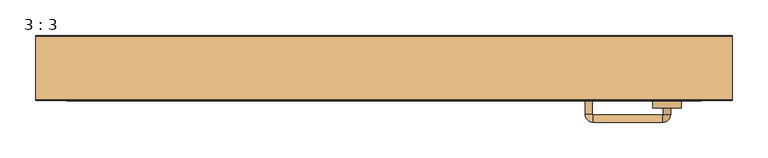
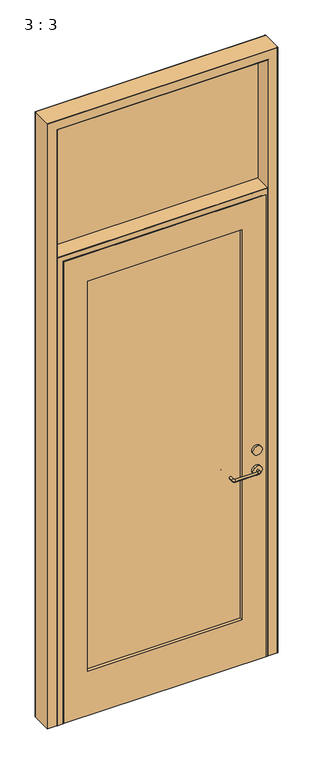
"""IFC4 building model written with IfcOpenShell, lengths in millimetres: door geometry, 3 : 3."""

from ifc_helpers import new_model, si_unit, point, frame, frame_2d, origin, place, context, project, spatial, polyline, circle_curve, ellipse_curve, trimmed, segment, composite_curve, outline, extrude, source, transform, mapped, element, save
from ifc_brep_helpers import plane_surface, cylinder_surface, revolved_surface, advanced_brep


def door_3_3_d5ae6cf6(model_context):
    return source(origin(), model_context, "Body", "SolidModel", [
        advanced_brep(
        [(282.9853306, 0.0, 855.0000042), (292.9853306, 0.0, 855.0000042), (292.9853306, 40.0, 855.0000042), (282.9853306, 40.0, 855.0000042), (402.9183216, 0.0, 855.0000042), (392.9183216, 0.0, 855.0000042), (392.9183216, -19.0, 855.0000042), (402.9183216, -19.0, 855.0000042), (391.9183216, -20.0, 855.0000042), (391.9183216, -30.0, 855.0000042), (293.9853306, -20.0, 855.0000042), (293.9853306, -30.0, 855.0000042), (292.9853306, -19.0, 855.0000042), (282.9853306, -19.0, 855.0000042), (292.9853306, 59.0, 855.0000042), (282.9853306, 59.0, 855.0000042), (293.9853306, 60.0, 855.0000042), (293.9853306, 70.0, 855.0000042), (391.9183216, 60.0, 855.0000042), (391.9183216, 70.0, 855.0000042), (392.9183216, 59.0, 855.0000042), (402.9183216, 59.0, 855.0000042)],
        [
            (0, 1, circle_curve(frame((287.9853306, 0.0, 855.0000042), z_axis=(0.0, 1.0, 0.0), x_axis=(-1.0, 0.0, 0.0)), 5.0)),
            (1, 0, circle_curve(frame((287.9853306, 0.0, 855.0000042), z_axis=(0.0, 1.0, 0.0), x_axis=(-1.0, 0.0, 0.0)), 5.0)),
            (2, 3, circle_curve(frame((287.9853306, 40.0, 855.0000042), z_axis=(0.0, -1.0, 0.0), x_axis=(-1.0, 0.0, 0.0)), 5.0)),
            (3, 2, circle_curve(frame((287.9853306, 40.0, 855.0000042), z_axis=(0.0, -1.0, 0.0), x_axis=(-1.0, 0.0, 0.0)), 5.0)),
            (4, 5, circle_curve(frame((397.9183216, 0.0, 855.0000042), z_axis=(0.0, -1.0, 0.0), x_axis=(1.0, 0.0, 0.0)), 5.0)),
            (5, 6),
            (6, 7, circle_curve(frame((397.9183216, -19.0, 855.0000042), z_axis=(0.0, 1.0, 0.0), x_axis=(1.0, 0.0, 0.0)), 5.0)),
            (7, 4),
            (5, 4, circle_curve(frame((397.9183216, 0.0, 855.0000042), z_axis=(0.0, -1.0, 0.0), x_axis=(1.0, 0.0, 0.0)), 5.0)),
            (7, 6, circle_curve(frame((397.9183216, -19.0, 855.0000042), z_axis=(0.0, 1.0, 0.0), x_axis=(1.0, 0.0, 0.0)), 5.0)),
            (6, 8, circle_curve(frame((391.9183216, -19.0, 855.0000042), z_axis=(0.0, 0.0, -1.0), x_axis=(1.0, 0.0, 0.0)), 1.0)),
            (8, 9, circle_curve(frame((391.9183216, -25.0, 855.0000042), z_axis=(1.0, 0.0, 0.0), x_axis=(0.0, -1.0, 0.0)), 5.0)),
            (9, 7, circle_curve(frame((391.9183216, -19.0, 855.0000042), z_axis=(0.0, 0.0, 1.0), x_axis=(1.0, 0.0, 0.0)), 11.0)),
            (9, 8, circle_curve(frame((391.9183216, -25.0, 855.0000042), z_axis=(1.0, 0.0, 0.0), x_axis=(0.0, -1.0, 0.0)), 5.0)),
            (8, 10),
            (10, 11, circle_curve(frame((293.9853306, -25.0, 855.0000042), z_axis=(1.0, 0.0, 0.0), x_axis=(0.0, -1.0, 0.0)), 5.0)),
            (11, 9),
            (11, 10, circle_curve(frame((293.9853306, -25.0, 855.0000042), z_axis=(1.0, 0.0, 0.0), x_axis=(0.0, -1.0, 0.0)), 5.0)),
            (10, 12, circle_curve(frame((293.9853306, -19.0, 855.0000042), z_axis=(0.0, 0.0, -1.0), x_axis=(0.0, -1.0, 0.0)), 1.0)),
            (12, 13, circle_curve(frame((287.9853306, -19.0, 855.0000042), z_axis=(0.0, -1.0, 0.0), x_axis=(-1.0, 0.0, 0.0)), 5.0)),
            (13, 11, circle_curve(frame((293.9853306, -19.0, 855.0000042), z_axis=(0.0, 0.0, 1.0), x_axis=(0.0, -1.0, 0.0)), 11.0)),
            (13, 12, circle_curve(frame((287.9853306, -19.0, 855.0000042), z_axis=(0.0, -1.0, 0.0), x_axis=(-1.0, 0.0, 0.0)), 5.0)),
            (12, 1),
            (0, 13),
            (14, 15, circle_curve(frame((287.9853306, 59.0, 855.0000042), z_axis=(0.0, -1.0, 0.0), x_axis=(-1.0, 0.0, 0.0)), 5.0)),
            (15, 3),
            (2, 14),
            (15, 14, circle_curve(frame((287.9853306, 59.0, 855.0000042), z_axis=(0.0, -1.0, 0.0), x_axis=(-1.0, 0.0, 0.0)), 5.0)),
            (14, 16, circle_curve(frame((293.9853306, 59.0, 855.0000042), z_axis=(0.0, 0.0, -1.0), x_axis=(-1.0, 0.0, 0.0)), 1.0)),
            (16, 17, circle_curve(frame((293.9853306, 65.0, 855.0000042), z_axis=(-1.0, 0.0, 0.0), x_axis=(0.0, 1.0, 0.0)), 5.0)),
            (17, 15, circle_curve(frame((293.9853306, 59.0, 855.0000042), z_axis=(0.0, 0.0, 1.0), x_axis=(-1.0, 0.0, 0.0)), 11.0)),
            (17, 16, circle_curve(frame((293.9853306, 65.0, 855.0000042), z_axis=(-1.0, 0.0, 0.0), x_axis=(0.0, 1.0, 0.0)), 5.0)),
            (16, 18),
            (18, 19, circle_curve(frame((391.9183216, 65.0, 855.0000042), z_axis=(-1.0, 0.0, 0.0), x_axis=(0.0, 1.0, 0.0)), 5.0)),
            (19, 17),
            (19, 18, circle_curve(frame((391.9183216, 65.0, 855.0000042), z_axis=(-1.0, 0.0, 0.0), x_axis=(0.0, 1.0, 0.0)), 5.0)),
            (18, 20, circle_curve(frame((391.9183216, 59.0, 855.0000042), z_axis=(0.0, 0.0, -1.0), x_axis=(0.0, 1.0, 0.0)), 1.0)),
            (20, 21, circle_curve(frame((397.9183216, 59.0, 855.0000042), z_axis=(0.0, 1.0, 0.0), x_axis=(1.0, 0.0, 0.0)), 5.0)),
            (21, 19, circle_curve(frame((391.9183216, 59.0, 855.0000042), z_axis=(0.0, 0.0, 1.0), x_axis=(0.0, 1.0, 0.0)), 11.0)),
            (21, 20, circle_curve(frame((397.9183216, 59.0, 855.0000042), z_axis=(0.0, 1.0, 0.0), x_axis=(1.0, 0.0, 0.0)), 5.0)),
            (4, 21),
            (20, 5),
        ],
        [
            plane_surface(frame((438.0, 0.0, 0.0), z_axis=(0.0, 1.0, 0.0), x_axis=(0.0, 0.0, 1.0))),
            plane_surface(frame((438.0, 40.0, 0.0), z_axis=(0.0, -1.0, 0.0), x_axis=(0.0, 0.0, 1.0))),
            cylinder_surface(frame((397.9183216, 0.0, 855.0000042), z_axis=(0.0, 1.0, 0.0), x_axis=(1.0, 0.0, 0.0)), 5.0),
            revolved_surface(trimmed(ellipse_curve(frame((397.9183216, -19.0, 855.0000042), z_axis=(0.0, 1.0, 0.0), x_axis=(1.0, 0.0, 0.0)), 5.0, 5.0), [point((392.9183216, -19.0, 855.0000042))], [point((402.9183216, -19.0, 855.0000042))], True, "CARTESIAN"), (391.9183216, -19.0, 0.0), (0.0, 0.0, -1.0)),
            revolved_surface(trimmed(ellipse_curve(frame((397.9183216, -19.0, 855.0000042), z_axis=(0.0, 1.0, 0.0), x_axis=(1.0, 0.0, 0.0)), 5.0, 5.0), [point((402.9183216, -19.0, 855.0000042))], [point((392.9183216, -19.0, 855.0000042))], True, "CARTESIAN"), (391.9183216, -19.0, 0.0), (0.0, 0.0, -1.0)),
            cylinder_surface(frame((391.9183216, -25.0, 855.0000042), z_axis=(1.0, 0.0, 0.0), x_axis=(0.0, -1.0, 0.0)), 5.0),
            revolved_surface(trimmed(ellipse_curve(frame((293.9853306, -25.0, 855.0000042), z_axis=(1.0, 0.0, 0.0), x_axis=(0.0, -1.0, 0.0)), 5.0, 5.0), [point((293.9853306, -20.0, 855.0000042))], [point((293.9853306, -30.0, 855.0000042))], True, "CARTESIAN"), (293.9853306, -19.0, 0.0), (0.0, 0.0, -1.0)),
            revolved_surface(trimmed(ellipse_curve(frame((293.9853306, -25.0, 855.0000042), z_axis=(1.0, 0.0, 0.0), x_axis=(0.0, -1.0, 0.0)), 5.0, 5.0), [point((293.9853306, -30.0, 855.0000042))], [point((293.9853306, -20.0, 855.0000042))], True, "CARTESIAN"), (293.9853306, -19.0, 0.0), (0.0, 0.0, -1.0)),
            cylinder_surface(frame((287.9853306, -19.0, 855.0000042), z_axis=(0.0, -1.0, 0.0), x_axis=(-1.0, 0.0, 0.0)), 5.0),
            cylinder_surface(frame((287.9853306, 0.0, 855.0000042), z_axis=(0.0, -1.0, 0.0), x_axis=(-1.0, 0.0, 0.0)), 5.0),
            revolved_surface(trimmed(ellipse_curve(frame((287.9853306, 59.0, 855.0000042), z_axis=(0.0, -1.0, 0.0), x_axis=(-1.0, 0.0, 0.0)), 5.0, 5.0), [point((292.9853306, 59.0, 855.0000042))], [point((282.9853306, 59.0, 855.0000042))], True, "CARTESIAN"), (293.9853306, 59.0, 0.0), (0.0, 0.0, -1.0)),
            revolved_surface(trimmed(ellipse_curve(frame((287.9853306, 59.0, 855.0000042), z_axis=(0.0, -1.0, 0.0), x_axis=(-1.0, 0.0, 0.0)), 5.0, 5.0), [point((282.9853306, 59.0, 855.0000042))], [point((292.9853306, 59.0, 855.0000042))], True, "CARTESIAN"), (293.9853306, 59.0, 0.0), (0.0, 0.0, -1.0)),
            cylinder_surface(frame((293.9853306, 65.0, 855.0000042), z_axis=(-1.0, 0.0, 0.0), x_axis=(0.0, 1.0, 0.0)), 5.0),
            revolved_surface(trimmed(ellipse_curve(frame((391.9183216, 65.0, 855.0000042), z_axis=(-1.0, 0.0, 0.0), x_axis=(0.0, 1.0, 0.0)), 5.0, 5.0), [point((391.9183216, 60.0, 855.0000042))], [point((391.9183216, 70.0, 855.0000042))], True, "CARTESIAN"), (391.9183216, 59.0, 0.0), (0.0, 0.0, -1.0)),
            revolved_surface(trimmed(ellipse_curve(frame((391.9183216, 65.0, 855.0000042), z_axis=(-1.0, 0.0, 0.0), x_axis=(0.0, 1.0, 0.0)), 5.0, 5.0), [point((391.9183216, 70.0, 855.0000042))], [point((391.9183216, 60.0, 855.0000042))], True, "CARTESIAN"), (391.9183216, 59.0, 0.0), (0.0, 0.0, -1.0)),
            cylinder_surface(frame((397.9183216, 59.0, 855.0000042), z_axis=(0.0, 1.0, 0.0), x_axis=(1.0, 0.0, 0.0)), 5.0),
        ],
        [
            (0, [[1, 2]]),
            (1, [[3, 4]]),
            (2, [[5, 6, 7, 8]]),
            (2, [[-6, 9, -8, 10]]),
            (3, [[-7, 11, 12, 13]]),
            (4, [[-10, -13, 14, -11]]),
            (5, [[-12, 15, 16, 17]]),
            (5, [[-14, -17, 18, -15]]),
            (6, [[-16, 19, 20, 21]]),
            (7, [[-18, -21, 22, -19]]),
            (8, [[-20, 23, -1, 24]]),
            (8, [[-22, -24, -2, -23]]),
            (9, [[25, 26, -3, 27]]),
            (9, [[28, -27, -4, -26]]),
            (10, [[-25, 29, 30, 31]]),
            (11, [[-28, -31, 32, -29]]),
            (12, [[-30, 33, 34, 35]]),
            (12, [[-32, -35, 36, -33]]),
            (13, [[-34, 37, 38, 39]]),
            (14, [[-36, -39, 40, -37]]),
            (15, [[-5, 41, -38, 42]]),
            (15, [[-9, -42, -40, -41]]),
        ],
    ),
        extrude(outline(polyline([(337.9573841, 14.0), (-318.0426159, 14.0), (-318.0426159, 26.0), (337.9573841, 26.0), (337.9573841, 14.0)])), frame((0.0, 0.0, 200.0), z_axis=(0.0, 0.0, 1.0), x_axis=(1.0, 0.0, 0.0)), (0.0, 0.0, 1.0), 1750.0),
        extrude(outline(polyline([(2072.0, 437.9573841), (2072.0, -418.0), (0.0, -418.0), (0.0, 437.9573841), (2072.0, 437.9573841)]), holes=[polyline([(1950.0, -318.0426159), (1950.0, 337.9573841), (200.0, 337.9573841), (200.0, -318.0426159), (1950.0, -318.0426159)])]), frame((0.0, 0.0, 0.0), z_axis=(0.0, 1.0, 0.0), x_axis=(0.0, 0.0, 1.0)), (0.0, 0.0, 1.0), 40.0),
        extrude(outline(polyline([(-448.0, 85.5), (448.0, 85.5), (448.0, 74.5), (-448.0, 74.5), (-448.0, 85.5)])), frame((0.0, 0.0, 2100.0), z_axis=(0.0, 0.0, 1.0), x_axis=(1.0, 0.0, 0.0)), (0.0, 0.0, 1.0), 574.0),
        advanced_brep(
        [(488.0, 0.0, 0.0), (450.0, 0.0, 0.0), (448.0, 2.0, 0.0), (448.0, 90.0, 0.0), (450.0, 92.0, 0.0), (488.0, 92.0, 0.0), (490.0, 90.0, 0.0), (490.0, 2.0, 0.0), (488.0, 0.0, 2714.0), (-488.0, 0.0, 2714.0), (-488.0, 0.0, 0.0), (-450.0, 0.0, 0.0), (-450.0, 0.0, 2676.0), (450.0, 0.0, 2676.0), (448.0, 2.0, 2674.0), (448.0, 90.0, 2674.0), (450.0, 92.0, 2676.0), (-450.0, 92.0, 2676.0), (-450.0, 92.0, 0.0), (-488.0, 92.0, 0.0), (-488.0, 92.0, 2714.0), (488.0, 92.0, 2714.0), (490.0, 90.0, 2716.0), (490.0, 2.0, 2716.0), (-448.0, 2.0, 2674.0), (-448.0, 90.0, 2674.0), (-490.0, 90.0, 2716.0), (-490.0, 2.0, 2716.0), (-490.0, 2.0, 0.0), (-490.0, 90.0, 0.0), (-448.0, 90.0, 0.0), (-448.0, 2.0, 0.0)],
        [
            (0, 1),
            (1, 2, circle_curve(frame((450.0, 2.0, 0.0), z_axis=(0.0, 0.0, -1.0), x_axis=(1.0, 0.0, 0.0)), 2.0)),
            (2, 3),
            (3, 4, circle_curve(frame((450.0, 90.0, 0.0), z_axis=(0.0, 0.0, -1.0), x_axis=(1.0, 0.0, 0.0)), 2.0)),
            (4, 5),
            (5, 6, circle_curve(frame((488.0, 90.0, 0.0), z_axis=(0.0, 0.0, -1.0), x_axis=(1.0, 0.0, 0.0)), 2.0)),
            (6, 7),
            (7, 0, circle_curve(frame((488.0, 2.0, 0.0), z_axis=(0.0, 0.0, -1.0), x_axis=(1.0, 0.0, 0.0)), 2.0)),
            (0, 8),
            (8, 9),
            (9, 10),
            (10, 11),
            (11, 12),
            (12, 13),
            (13, 1),
            (2, 14),
            (14, 15),
            (15, 3),
            (4, 16),
            (16, 17),
            (17, 18),
            (18, 19),
            (19, 20),
            (20, 21),
            (21, 5),
            (6, 22),
            (22, 23),
            (23, 7),
            (14, 24),
            (24, 25),
            (25, 15),
            (22, 26),
            (26, 27),
            (27, 23),
            (10, 28, circle_curve(frame((-488.0, 2.0, 0.0), z_axis=(0.0, 0.0, -1.0), x_axis=(-1.0, 0.0, 0.0)), 2.0)),
            (28, 29),
            (29, 19, circle_curve(frame((-488.0, 90.0, 0.0), z_axis=(0.0, 0.0, -1.0), x_axis=(-1.0, 0.0, 0.0)), 2.0)),
            (18, 30, circle_curve(frame((-450.0, 90.0, 0.0), z_axis=(0.0, 0.0, -1.0), x_axis=(-1.0, 0.0, 0.0)), 2.0)),
            (30, 31),
            (31, 11, circle_curve(frame((-450.0, 2.0, 0.0), z_axis=(0.0, 0.0, -1.0), x_axis=(-1.0, 0.0, 0.0)), 2.0)),
            (24, 31),
            (30, 25),
            (26, 29),
            (28, 27),
            (13, 14, ellipse_curve(frame((450.0, 2.0, 2676.0), z_axis=(0.7071067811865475, 0.0, -0.7071067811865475), x_axis=(-0.7071067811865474, 0.0, -0.7071067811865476)), 2.8284271, 2.0)),
            (15, 16, ellipse_curve(frame((450.0, 90.0, 2676.0), z_axis=(0.7071067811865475, 0.0, -0.7071067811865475), x_axis=(-0.7071067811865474, 0.0, -0.7071067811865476)), 2.8284271, 2.0)),
            (21, 22, ellipse_curve(frame((488.0, 90.0, 2714.0), z_axis=(0.7071067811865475, 0.0, -0.7071067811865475), x_axis=(-0.7071067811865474, 0.0, -0.7071067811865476)), 2.8284271, 2.0)),
            (23, 8, ellipse_curve(frame((488.0, 2.0, 2714.0), z_axis=(0.7071067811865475, 0.0, -0.7071067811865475), x_axis=(-0.7071067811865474, 0.0, -0.7071067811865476)), 2.8284271, 2.0)),
            (12, 24, ellipse_curve(frame((-450.0, 2.0, 2676.0), z_axis=(0.7071067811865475, 0.0, 0.7071067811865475), x_axis=(0.7071067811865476, 0.0, -0.7071067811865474)), 2.8284271, 2.0)),
            (25, 17, ellipse_curve(frame((-450.0, 90.0, 2676.0), z_axis=(0.7071067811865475, 0.0, 0.7071067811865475), x_axis=(0.7071067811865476, 0.0, -0.7071067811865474)), 2.8284271, 2.0)),
            (20, 26, ellipse_curve(frame((-488.0, 90.0, 2714.0), z_axis=(0.7071067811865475, 0.0, 0.7071067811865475), x_axis=(0.7071067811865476, 0.0, -0.7071067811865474)), 2.8284271, 2.0)),
            (27, 9, ellipse_curve(frame((-488.0, 2.0, 2714.0), z_axis=(0.7071067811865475, 0.0, 0.7071067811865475), x_axis=(0.7071067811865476, 0.0, -0.7071067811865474)), 2.8284271, 2.0)),
        ],
        [
            plane_surface(frame((490.0, 0.0, 0.0), z_axis=(0.0, 0.0, -1.0), x_axis=(0.0, 1.0, 0.0))),
            plane_surface(frame((488.0, 0.0, 0.0), z_axis=(0.0, -1.0, 0.0), x_axis=(0.0, 0.0, 1.0))),
            plane_surface(frame((448.0, 2.0, 0.0), z_axis=(-1.0, 0.0, 0.0), x_axis=(0.0, 0.0, 1.0))),
            plane_surface(frame((450.0, 92.0, 0.0), z_axis=(0.0, 1.0, 0.0), x_axis=(0.0, 0.0, 1.0))),
            plane_surface(frame((490.0, 90.0, 0.0), z_axis=(1.0, 0.0, 0.0), x_axis=(0.0, 0.0, 1.0))),
            plane_surface(frame((448.0, 2.0, 2674.0), z_axis=(0.0, 0.0, -1.0), x_axis=(-1.0, 0.0, 0.0))),
            plane_surface(frame((490.0, 90.0, 2716.0), z_axis=(0.0, 0.0, 1.0), x_axis=(-1.0, 0.0, 0.0))),
            plane_surface(frame((-490.0, 0.0, 0.0), z_axis=(0.0, 0.0, -1.0), x_axis=(0.0, 1.0, 0.0))),
            plane_surface(frame((-448.0, 2.0, 2674.0), z_axis=(1.0, 0.0, 0.0), x_axis=(0.0, 0.0, -1.0))),
            plane_surface(frame((-490.0, 90.0, 2716.0), z_axis=(-1.0, 0.0, 0.0), x_axis=(0.0, 0.0, -1.0))),
            cylinder_surface(frame((450.0, 2.0, 0.0), z_axis=(0.0, 0.0, -1.0), x_axis=(1.0, 0.0, 0.0)), 2.0),
            cylinder_surface(frame((450.0, 90.0, 0.0), z_axis=(0.0, 0.0, -1.0), x_axis=(1.0, 0.0, 0.0)), 2.0),
            cylinder_surface(frame((488.0, 90.0, 0.0), z_axis=(0.0, 0.0, -1.0), x_axis=(1.0, 0.0, 0.0)), 2.0),
            cylinder_surface(frame((488.0, 2.0, 0.0), z_axis=(0.0, 0.0, -1.0), x_axis=(1.0, 0.0, 0.0)), 2.0),
            cylinder_surface(frame((490.0, 2.0, 2676.0), z_axis=(1.0, 0.0, 0.0), x_axis=(0.0, 0.0, 1.0)), 2.0),
            cylinder_surface(frame((490.0, 90.0, 2676.0), z_axis=(1.0, 0.0, 0.0), x_axis=(0.0, 0.0, 1.0)), 2.0),
            cylinder_surface(frame((490.0, 90.0, 2714.0), z_axis=(1.0, 0.0, 0.0), x_axis=(0.0, 0.0, 1.0)), 2.0),
            cylinder_surface(frame((490.0, 2.0, 2714.0), z_axis=(1.0, 0.0, 0.0), x_axis=(0.0, 0.0, 1.0)), 2.0),
            cylinder_surface(frame((-450.0, 2.0, 2716.0), z_axis=(0.0, 0.0, 1.0), x_axis=(-1.0, 0.0, 0.0)), 2.0),
            cylinder_surface(frame((-450.0, 90.0, 2716.0), z_axis=(0.0, 0.0, 1.0), x_axis=(-1.0, 0.0, 0.0)), 2.0),
            cylinder_surface(frame((-488.0, 90.0, 2716.0), z_axis=(0.0, 0.0, 1.0), x_axis=(-1.0, 0.0, 0.0)), 2.0),
            cylinder_surface(frame((-488.0, 2.0, 2716.0), z_axis=(0.0, 0.0, 1.0), x_axis=(-1.0, 0.0, 0.0)), 2.0),
        ],
        [
            (0, [[1, 2, 3, 4, 5, 6, 7, 8]]),
            (1, [[-1, 9, 10, 11, 12, 13, 14, 15]]),
            (2, [[-3, 16, 17, 18]]),
            (3, [[-5, 19, 20, 21, 22, 23, 24, 25]]),
            (4, [[-7, 26, 27, 28]]),
            (5, [[-17, 29, 30, 31]]),
            (6, [[-27, 32, 33, 34]]),
            (7, [[35, 36, 37, -22, 38, 39, 40, -12]]),
            (8, [[-30, 41, -39, 42]]),
            (9, [[-33, 43, -36, 44]]),
            (10, [[-2, -15, 45, -16]]),
            (11, [[-4, -18, 46, -19]]),
            (12, [[-6, -25, 47, -26]]),
            (13, [[-8, -28, 48, -9]]),
            (14, [[-45, -14, 49, -29]]),
            (15, [[-46, -31, 50, -20]]),
            (16, [[-47, -24, 51, -32]]),
            (17, [[-48, -34, 52, -10]]),
            (18, [[-49, -13, -40, -41]]),
            (19, [[-50, -42, -38, -21]]),
            (20, [[-51, -23, -37, -43]]),
            (21, [[-52, -44, -35, -11]]),
        ],
    ),
        advanced_brep(
        [(-446.0, 92.0, 0.0), (-423.0, 92.0, 0.0), (-421.0, 90.0, 0.0), (-421.0, 87.0, 0.0), (-411.0361518, 87.0, 0.0), (-409.0361518, 85.0, 0.0), (-409.0, 45.0, 0.0), (-411.0361518, 43.0, 0.0), (-421.0, 43.0, 0.0), (-421.0, 2.0, 0.0), (-423.0, 0.0, 0.0), (-446.0, 0.0, 0.0), (-448.0, 2.0, 0.0), (-448.0, 90.0, 0.0), (-446.0, 92.0, 2098.0), (446.0, 92.0, 2098.0), (446.0, 92.0, 0.0), (423.0, 92.0, 0.0), (423.0, 92.0, 2075.0), (-423.0, 92.0, 2075.0), (-421.0, 90.0, 2073.0), (-421.0, 87.0, 2073.0), (421.0, 87.0, 2073.0), (421.0, 87.0, 0.0), (411.0361518, 87.0, 0.0), (411.0361518, 87.0, 2063.0361518), (-411.0361518, 87.0, 2063.0361518), (-409.0361518, 85.0, 2061.0361518), (-409.0, 45.0, 2061.0), (-411.0361518, 43.0, 2063.0361518), (411.0361518, 43.0, 2063.0361518), (411.0361518, 43.0, 0.0), (421.0, 43.0, 0.0), (421.0, 43.0, 2073.0), (-421.0, 43.0, 2073.0), (-421.0, 2.0, 2073.0), (-423.0, 0.0, 2075.0), (423.0, 0.0, 2075.0), (423.0, 0.0, 0.0), (446.0, 0.0, 0.0), (446.0, 0.0, 2098.0), (-446.0, 0.0, 2098.0), (-448.0, 2.0, 2100.0), (-448.0, 90.0, 2100.0), (421.0, 90.0, 2073.0), (409.0361518, 85.0, 2061.0361518), (409.0, 45.0, 2061.0), (421.0, 2.0, 2073.0), (448.0, 2.0, 2100.0), (448.0, 90.0, 2100.0), (448.0, 90.0, 0.0), (448.0, 2.0, 0.0), (421.0, 2.0, 0.0), (409.0361518, 45.0, 0.0), (409.0, 85.0, 0.0), (421.0, 90.0, 0.0)],
        [
            (0, 1),
            (1, 2, circle_curve(frame((-423.0, 90.0, 0.0), z_axis=(0.0, 0.0, -1.0), x_axis=(0.0, 1.0, 0.0)), 2.0)),
            (2, 3),
            (3, 4),
            (4, 5, circle_curve(frame((-411.0361518, 85.0, 0.0), z_axis=(0.0, 0.0, -1.0), x_axis=(0.0, 1.0, 0.0)), 2.0)),
            (5, 6),
            (6, 7, circle_curve(frame((-411.0361518, 45.0, 0.0), z_axis=(0.0, 0.0, -1.0), x_axis=(0.0, 1.0, 0.0)), 2.0)),
            (7, 8),
            (8, 9),
            (9, 10, circle_curve(frame((-423.0, 2.0, 0.0), z_axis=(0.0, 0.0, -1.0), x_axis=(0.0, 1.0, 0.0)), 2.0)),
            (10, 11),
            (11, 12, circle_curve(frame((-446.0, 2.0, 0.0), z_axis=(0.0, 0.0, -1.0), x_axis=(0.0, 1.0, 0.0)), 2.0)),
            (12, 13),
            (13, 0, circle_curve(frame((-446.0, 90.0, 0.0), z_axis=(0.0, 0.0, -1.0), x_axis=(0.0, 1.0, 0.0)), 2.0)),
            (0, 14),
            (14, 15),
            (15, 16),
            (16, 17),
            (17, 18),
            (18, 19),
            (19, 1),
            (19, 20, ellipse_curve(frame((-423.0, 90.0, 2075.0), z_axis=(-0.7071067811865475, 0.0, -0.7071067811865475), x_axis=(0.7071067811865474, 0.0, -0.7071067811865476)), 2.8284271, 2.0)),
            (20, 2),
            (20, 21),
            (21, 3),
            (21, 22),
            (22, 23),
            (23, 24),
            (24, 25),
            (25, 26),
            (26, 4),
            (26, 27, ellipse_curve(frame((-411.0361518, 85.0, 2063.0361518), z_axis=(-0.7071067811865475, 0.0, -0.7071067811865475), x_axis=(0.7071067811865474, 0.0, -0.7071067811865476)), 2.8284271, 2.0)),
            (27, 5),
            (27, 28),
            (28, 6),
            (28, 29, ellipse_curve(frame((-411.0361518, 45.0, 2063.0361518), z_axis=(-0.7071067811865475, 0.0, -0.7071067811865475), x_axis=(0.7071067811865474, 0.0, -0.7071067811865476)), 2.8284271, 2.0)),
            (29, 7),
            (29, 30),
            (30, 31),
            (31, 32),
            (32, 33),
            (33, 34),
            (34, 8),
            (34, 35),
            (35, 9),
            (35, 36, ellipse_curve(frame((-423.0, 2.0, 2075.0), z_axis=(-0.7071067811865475, 0.0, -0.7071067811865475), x_axis=(0.7071067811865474, 0.0, -0.7071067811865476)), 2.8284271, 2.0)),
            (36, 10),
            (36, 37),
            (37, 38),
            (38, 39),
            (39, 40),
            (40, 41),
            (41, 11),
            (41, 42, ellipse_curve(frame((-446.0, 2.0, 2098.0), z_axis=(-0.7071067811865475, 0.0, -0.7071067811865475), x_axis=(0.7071067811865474, 0.0, -0.7071067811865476)), 2.8284271, 2.0)),
            (42, 12),
            (42, 43),
            (43, 13),
            (43, 14, ellipse_curve(frame((-446.0, 90.0, 2098.0), z_axis=(-0.7071067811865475, 0.0, -0.7071067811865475), x_axis=(0.7071067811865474, 0.0, -0.7071067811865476)), 2.8284271, 2.0)),
            (18, 44, ellipse_curve(frame((423.0, 90.0, 2075.0), z_axis=(-0.7071067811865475, 0.0, 0.7071067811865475), x_axis=(-0.7071067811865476, 0.0, -0.7071067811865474)), 2.8284271, 2.0)),
            (44, 20),
            (44, 22),
            (25, 45, ellipse_curve(frame((411.0361518, 85.0, 2063.0361518), z_axis=(-0.7071067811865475, 0.0, 0.7071067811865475), x_axis=(-0.7071067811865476, 0.0, -0.7071067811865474)), 2.8284271, 2.0)),
            (45, 27),
            (45, 46),
            (46, 28),
            (46, 30, ellipse_curve(frame((411.0361518, 45.0, 2063.0361518), z_axis=(-0.7071067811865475, 0.0, 0.7071067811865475), x_axis=(-0.7071067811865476, 0.0, -0.7071067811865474)), 2.8284271, 2.0)),
            (33, 47),
            (47, 35),
            (47, 37, ellipse_curve(frame((423.0, 2.0, 2075.0), z_axis=(-0.7071067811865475, 0.0, 0.7071067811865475), x_axis=(-0.7071067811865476, 0.0, -0.7071067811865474)), 2.8284271, 2.0)),
            (40, 48, ellipse_curve(frame((446.0, 2.0, 2098.0), z_axis=(-0.7071067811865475, 0.0, 0.7071067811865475), x_axis=(-0.7071067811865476, 0.0, -0.7071067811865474)), 2.8284271, 2.0)),
            (48, 42),
            (48, 49),
            (49, 43),
            (49, 15, ellipse_curve(frame((446.0, 90.0, 2098.0), z_axis=(-0.7071067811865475, 0.0, 0.7071067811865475), x_axis=(-0.7071067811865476, 0.0, -0.7071067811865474)), 2.8284271, 2.0)),
            (16, 50, circle_curve(frame((446.0, 90.0, 0.0), z_axis=(0.0, 0.0, -1.0), x_axis=(0.0, 1.0, 0.0)), 2.0)),
            (50, 51),
            (51, 39, circle_curve(frame((446.0, 2.0, 0.0), z_axis=(0.0, 0.0, -1.0), x_axis=(0.0, 1.0, 0.0)), 2.0)),
            (38, 52, circle_curve(frame((423.0, 2.0, 0.0), z_axis=(0.0, 0.0, -1.0), x_axis=(0.0, 1.0, 0.0)), 2.0)),
            (52, 32),
            (31, 53, circle_curve(frame((411.0361518, 45.0, 0.0), z_axis=(0.0, 0.0, -1.0), x_axis=(0.0, 1.0, 0.0)), 2.0)),
            (53, 54),
            (54, 24, circle_curve(frame((411.0361518, 85.0, 0.0), z_axis=(0.0, 0.0, -1.0), x_axis=(0.0, 1.0, 0.0)), 2.0)),
            (23, 55),
            (55, 17, circle_curve(frame((423.0, 90.0, 0.0), z_axis=(0.0, 0.0, -1.0), x_axis=(0.0, 1.0, 0.0)), 2.0)),
            (55, 44),
            (54, 45),
            (53, 46),
            (52, 47),
            (51, 48),
            (50, 49),
        ],
        [
            plane_surface(frame((-448.0, 0.0, 0.0), z_axis=(0.0, 0.0, -1.0), x_axis=(0.0, 1.0, 0.0))),
            plane_surface(frame((-446.0, 92.0, 0.0), z_axis=(0.0, 1.0, 0.0), x_axis=(0.0, 0.0, 1.0))),
            cylinder_surface(frame((-423.0, 90.0, 0.0), z_axis=(0.0, 0.0, -1.0), x_axis=(0.0, 1.0, 0.0)), 2.0),
            plane_surface(frame((-421.0, 90.0, 0.0), z_axis=(1.0, 0.0, 0.0), x_axis=(0.0, 0.0, 1.0))),
            plane_surface(frame((-421.0, 87.0, 0.0), z_axis=(0.0, 1.0, 0.0), x_axis=(0.0, 0.0, 1.0))),
            cylinder_surface(frame((-411.0361518, 85.0, 0.0), z_axis=(0.0, 0.0, -1.0), x_axis=(0.0, 1.0, 0.0)), 2.0),
            plane_surface(frame((-409.0, 85.0, 0.0), z_axis=(1.0, 0.0, 0.0), x_axis=(0.0, 0.0, 1.0))),
            cylinder_surface(frame((-411.0361518, 45.0, 0.0), z_axis=(0.0, 0.0, -1.0), x_axis=(0.0, 1.0, 0.0)), 2.0),
            plane_surface(frame((-411.0361518, 43.0, 0.0), z_axis=(0.0, -1.0, 0.0), x_axis=(0.0, 0.0, 1.0))),
            plane_surface(frame((-421.0, 43.0, 0.0), z_axis=(1.0, 0.0, 0.0), x_axis=(0.0, 0.0, 1.0))),
            cylinder_surface(frame((-423.0, 2.0, 0.0), z_axis=(0.0, 0.0, -1.0), x_axis=(0.0, 1.0, 0.0)), 2.0),
            plane_surface(frame((-423.0, 0.0, 0.0), z_axis=(0.0, -1.0, 0.0), x_axis=(0.0, 0.0, 1.0))),
            cylinder_surface(frame((-446.0, 2.0, 0.0), z_axis=(0.0, 0.0, -1.0), x_axis=(0.0, 1.0, 0.0)), 2.0),
            plane_surface(frame((-448.0, 2.0, 0.0), z_axis=(-1.0, 0.0, 0.0), x_axis=(0.0, 0.0, 1.0))),
            cylinder_surface(frame((-446.0, 90.0, 0.0), z_axis=(0.0, 0.0, -1.0), x_axis=(0.0, 1.0, 0.0)), 2.0),
            cylinder_surface(frame((-448.0, 90.0, 2075.0), z_axis=(-1.0, 0.0, 0.0), x_axis=(0.0, 1.0, 0.0)), 2.0),
            plane_surface(frame((-421.0, 90.0, 2073.0), z_axis=(0.0, 0.0, -1.0), x_axis=(1.0, 0.0, 0.0))),
            cylinder_surface(frame((-448.0, 85.0, 2063.0361518), z_axis=(-1.0, 0.0, 0.0), x_axis=(0.0, 1.0, 0.0)), 2.0),
            plane_surface(frame((-409.0, 85.0, 2061.0), z_axis=(0.0, 0.0, -1.0), x_axis=(1.0, 0.0, 0.0))),
            cylinder_surface(frame((-448.0, 45.0, 2063.0361518), z_axis=(-1.0, 0.0, 0.0), x_axis=(0.0, 1.0, 0.0)), 2.0),
            plane_surface(frame((-421.0, 43.0, 2073.0), z_axis=(0.0, 0.0, -1.0), x_axis=(1.0, 0.0, 0.0))),
            cylinder_surface(frame((-448.0, 2.0, 2075.0), z_axis=(-1.0, 0.0, 0.0), x_axis=(0.0, 1.0, 0.0)), 2.0),
            cylinder_surface(frame((-448.0, 2.0, 2098.0), z_axis=(-1.0, 0.0, 0.0), x_axis=(0.0, 1.0, 0.0)), 2.0),
            plane_surface(frame((-448.0, 2.0, 2100.0), z_axis=(0.0, 0.0, 1.0), x_axis=(1.0, 0.0, 0.0))),
            cylinder_surface(frame((-448.0, 90.0, 2098.0), z_axis=(-1.0, 0.0, 0.0), x_axis=(0.0, 1.0, 0.0)), 2.0),
            plane_surface(frame((448.0, 0.0, 0.0), z_axis=(0.0, 0.0, -1.0), x_axis=(0.0, 1.0, 0.0))),
            cylinder_surface(frame((423.0, 90.0, 2100.0), z_axis=(0.0, 0.0, 1.0), x_axis=(0.0, 1.0, 0.0)), 2.0),
            plane_surface(frame((421.0, 90.0, 2073.0), z_axis=(-1.0, 0.0, 0.0), x_axis=(0.0, 0.0, -1.0))),
            cylinder_surface(frame((411.0361518, 85.0, 2100.0), z_axis=(0.0, 0.0, 1.0), x_axis=(0.0, 1.0, 0.0)), 2.0),
            plane_surface(frame((409.0, 85.0, 2061.0), z_axis=(-1.0, 0.0, 0.0), x_axis=(0.0, 0.0, -1.0))),
            cylinder_surface(frame((411.0361518, 45.0, 2100.0), z_axis=(0.0, 0.0, 1.0), x_axis=(0.0, 1.0, 0.0)), 2.0),
            plane_surface(frame((421.0, 43.0, 2073.0), z_axis=(-1.0, 0.0, 0.0), x_axis=(0.0, 0.0, -1.0))),
            cylinder_surface(frame((423.0, 2.0, 2100.0), z_axis=(0.0, 0.0, 1.0), x_axis=(0.0, 1.0, 0.0)), 2.0),
            cylinder_surface(frame((446.0, 2.0, 2100.0), z_axis=(0.0, 0.0, 1.0), x_axis=(0.0, 1.0, 0.0)), 2.0),
            plane_surface(frame((448.0, 2.0, 2100.0), z_axis=(1.0, 0.0, 0.0), x_axis=(0.0, 0.0, -1.0))),
            cylinder_surface(frame((446.0, 90.0, 2100.0), z_axis=(0.0, 0.0, 1.0), x_axis=(0.0, 1.0, 0.0)), 2.0),
        ],
        [
            (0, [[1, 2, 3, 4, 5, 6, 7, 8, 9, 10, 11, 12, 13, 14]]),
            (1, [[-1, 15, 16, 17, 18, 19, 20, 21]]),
            (2, [[-2, -21, 22, 23]]),
            (3, [[-3, -23, 24, 25]]),
            (4, [[-4, -25, 26, 27, 28, 29, 30, 31]]),
            (5, [[-5, -31, 32, 33]]),
            (6, [[-6, -33, 34, 35]]),
            (7, [[-7, -35, 36, 37]]),
            (8, [[-8, -37, 38, 39, 40, 41, 42, 43]]),
            (9, [[-9, -43, 44, 45]]),
            (10, [[-10, -45, 46, 47]]),
            (11, [[-11, -47, 48, 49, 50, 51, 52, 53]]),
            (12, [[-12, -53, 54, 55]]),
            (13, [[-13, -55, 56, 57]]),
            (14, [[-14, -57, 58, -15]]),
            (15, [[-22, -20, 59, 60]]),
            (16, [[-24, -60, 61, -26]]),
            (17, [[-32, -30, 62, 63]]),
            (18, [[-34, -63, 64, 65]]),
            (19, [[-36, -65, 66, -38]]),
            (20, [[-44, -42, 67, 68]]),
            (21, [[-46, -68, 69, -48]]),
            (22, [[-54, -52, 70, 71]]),
            (23, [[-56, -71, 72, 73]]),
            (24, [[-58, -73, 74, -16]]),
            (25, [[75, 76, 77, -50, 78, 79, -40, 80, 81, 82, -28, 83, 84, -18]]),
            (26, [[-59, -19, -84, 85]]),
            (27, [[-61, -85, -83, -27]]),
            (28, [[-62, -29, -82, 86]]),
            (29, [[-64, -86, -81, 87]]),
            (30, [[-66, -87, -80, -39]]),
            (31, [[-67, -41, -79, 88]]),
            (32, [[-69, -88, -78, -49]]),
            (33, [[-70, -51, -77, 89]]),
            (34, [[-72, -89, -76, 90]]),
            (35, [[-74, -90, -75, -17]]),
        ],
    ),
        extrude(outline(composite_curve([segment(trimmed(circle_curve(frame_2d((944.9999958, 397.9573841)), 20.0), [point((944.9999958, 417.9573841))], [point((944.9999958, 377.9573841))], False, "CARTESIAN"), True, "CONTINUOUS"), segment(trimmed(circle_curve(frame_2d((944.9999958, 397.9573841)), 20.0), [point((944.9999958, 377.9573841))], [point((944.9999958, 417.9573841))], False, "CARTESIAN"), True, "CONTINUOUS")], self_intersect=False)), frame((0.0, -10.0, 0.0), z_axis=(0.0, 1.0, 0.0), x_axis=(0.0, 0.0, 1.0)), (0.0, 0.0, 1.0), 60.0),
        extrude(outline(composite_curve([segment(trimmed(circle_curve(frame_2d((855.0000042, 397.9183216)), 20.0), [point((855.0000042, 417.9183216))], [point((855.0000042, 377.9183216))], False, "CARTESIAN"), True, "CONTINUOUS"), segment(trimmed(circle_curve(frame_2d((855.0000042, 397.9183216)), 20.0), [point((855.0000042, 377.9183216))], [point((855.0000042, 417.9183216))], False, "CARTESIAN"), True, "CONTINUOUS")], self_intersect=False)), frame((0.0, -10.0, 0.0), z_axis=(0.0, 1.0, 0.0), x_axis=(0.0, 0.0, 1.0)), (0.0, 0.0, 1.0), 60.0),
    ])


if __name__ == "__main__":
    model = new_model("IFC4")
    model_context = context("Model", 3, world=origin())
    ifc_project = project(units=[si_unit("LENGTHUNIT", "METRE", prefix="MILLI")], contexts=[model_context])
    site = spatial("IfcSite", under=ifc_project)
    building = spatial("IfcBuilding", under=site)
    placement = place(None, origin())
    door_3_3_shape = door_3_3_d5ae6cf6(model_context)
    element("IfcDoor", 1, ObjectType="3 : 3", at=placement, inside=building, context=model_context, shape_type="MappedRepresentation", body=[
        mapped(door_3_3_shape, transform((0.0, 0.0, 0.0), x_axis=(1.0, 0.0, 0.0), y_axis=(0.0, 1.0, 0.0), z_axis=(0.0, 0.0, 1.0))),
    ])
    save(model, "model.ifc")
